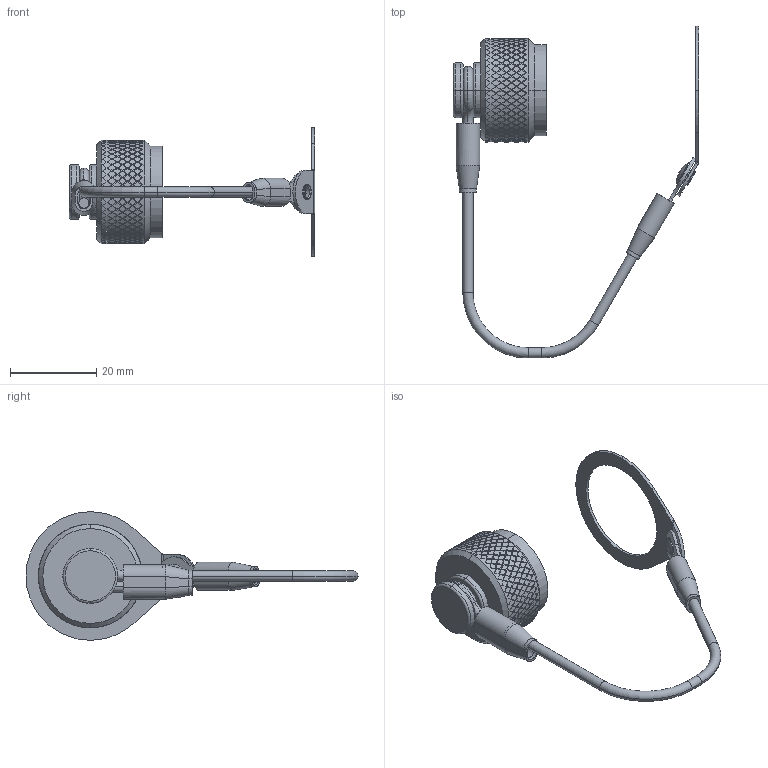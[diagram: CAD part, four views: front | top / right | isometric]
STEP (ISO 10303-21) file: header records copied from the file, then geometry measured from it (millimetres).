
FILE_DESCRIPTION (( 'STEP AP214' ), '1' );
FILE_NAME ('Q38DC-RJX-11-R0.STEP', '2026-04-22T20:19:56', ( '' ), ( '' ), 'SwSTEP 2.0', 'SolidWorks 2024', '' );
FILE_SCHEMA (( 'AUTOMOTIVE_DESIGN' ));
Length unit declared in the file: inch
Products named in the file (11): SW-348; HEAT SHRINK_HS-250X625_SW-348; Q38-XX29-P_11R; LN-06-07-13_Q38DC-RJX-11; SW-349_SW-349; Q38DC-RJX-11-R0; HEAT SHRINK_HS-125-625S; SW-347; SW-XRXX_SW-BR11; Q38-XX48-X_Q38-1148-X; Lanyard Assembly Q38_Q38DC-RJX-11
Assembly tree (10 placements, depth 3):
  Q38DC-RJX-11-R0
    Q38-XX48-X_Q38-1148-X
    Lanyard Assembly Q38_Q38DC-RJX-11
      LN-06-07-13_Q38DC-RJX-11
      SW-348
      HEAT SHRINK_HS-250X625_SW-348
      SW-347
      HEAT SHRINK_HS-125-625S
      SW-349_SW-349
      SW-XRXX_SW-BR11
    Q38-XX29-P_11R
Bounding box: 56.9 x 76.97 x 29.8 mm (x, y, z)
Volume: 5663.4 mm3; surface area: 7686 mm2
Topology: 9 solids, 9 shells, 2074 faces, 5107 edges, 3376 vertices
Faces by surface type: plane 1555, cylinder 469, torus 26, bspline 16, cone 6, sphere 2
Entity records: 62005 total; most frequent: CARTESIAN_POINT 21394, ORIENTED_EDGE 10214, DIRECTION 6420, EDGE_CURVE 5107, VERTEX_POINT 3376, EDGE_LOOP 2413, AXIS2_PLACEMENT_3D 2372, FACE_OUTER_BOUND 2074
